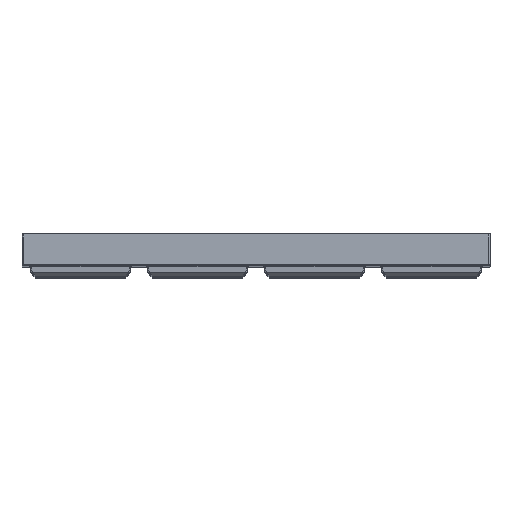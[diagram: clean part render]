
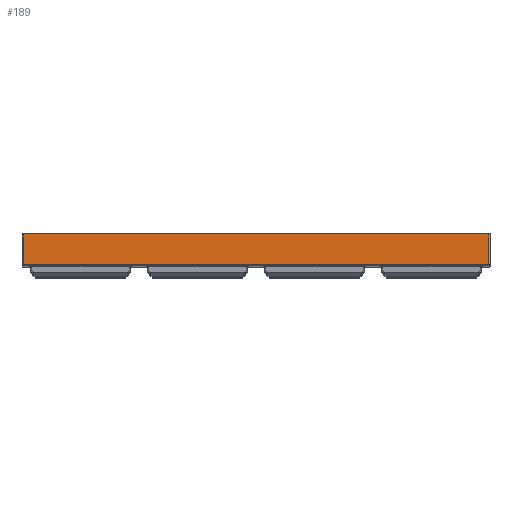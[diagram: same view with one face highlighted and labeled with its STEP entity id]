
A CAD part, top view. The second image highlights one B-rep face of the part: STEP entity #189.
In plain terms, the highlighted planar face has unit normal (0, 0, 1).
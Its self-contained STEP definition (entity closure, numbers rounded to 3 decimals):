
#189=ADVANCED_FACE('',(#1541),#20171,.T.);
#1541=FACE_OUTER_BOUND('',#2893,.T.);
#2893=EDGE_LOOP('',(#4654,#4655,#4656,#4657));
#4654=ORIENTED_EDGE('',*,*,#10967,.F.);
#4655=ORIENTED_EDGE('',*,*,#10968,.F.);
#4656=ORIENTED_EDGE('',*,*,#10969,.F.);
#4657=ORIENTED_EDGE('',*,*,#10966,.F.);
#10966=EDGE_CURVE('',#17606,#17607,#15736,.T.);
#10967=EDGE_CURVE('',#17608,#17606,#15737,.T.);
#10968=EDGE_CURVE('',#17609,#17608,#15738,.T.);
#10969=EDGE_CURVE('',#17607,#17609,#15739,.T.);
#15736=B_SPLINE_CURVE_WITH_KNOTS('',1,(#50628,#50629),.UNSPECIFIED.,.F.,
 .F.,(2,2),(0.,219.),.UNSPECIFIED.);
#15737=B_SPLINE_CURVE_WITH_KNOTS('',1,(#50630,#50631),.UNSPECIFIED.,.F.,
 .F.,(2,2),(-14.5,0.),.UNSPECIFIED.);
#15738=B_SPLINE_CURVE_WITH_KNOTS('',1,(#50632,#50633),.UNSPECIFIED.,.F.,
 .F.,(2,2),(-219.,0.),.UNSPECIFIED.);
#15739=B_SPLINE_CURVE_WITH_KNOTS('',1,(#50634,#50635),.UNSPECIFIED.,.F.,
 .F.,(2,2),(-14.5,0.),.UNSPECIFIED.);
#17606=VERTEX_POINT('',#48220);
#17607=VERTEX_POINT('',#48221);
#17608=VERTEX_POINT('',#48222);
#17609=VERTEX_POINT('',#48223);
#20171=PLANE('',#20515);
#20515=AXIS2_PLACEMENT_3D('',#22369,#20842,$);
#20842=DIRECTION('',(0.,0.,1.));
#22369=CARTESIAN_POINT('',(1434.206,141.357,440.));
#48220=CARTESIAN_POINT('',(1456.107,157.308,440.));
#48221=CARTESIAN_POINT('',(1675.107,157.308,440.));
#48222=CARTESIAN_POINT('',(1456.107,142.808,440.));
#48223=CARTESIAN_POINT('',(1675.107,142.808,440.));
#50628=CARTESIAN_POINT('',(1456.107,157.308,440.));
#50629=CARTESIAN_POINT('',(1675.107,157.308,440.));
#50630=CARTESIAN_POINT('',(1456.107,142.808,440.));
#50631=CARTESIAN_POINT('',(1456.107,157.308,440.));
#50632=CARTESIAN_POINT('',(1675.107,142.808,440.));
#50633=CARTESIAN_POINT('',(1456.107,142.808,440.));
#50634=CARTESIAN_POINT('',(1675.107,157.308,440.));
#50635=CARTESIAN_POINT('',(1675.107,142.808,440.));
